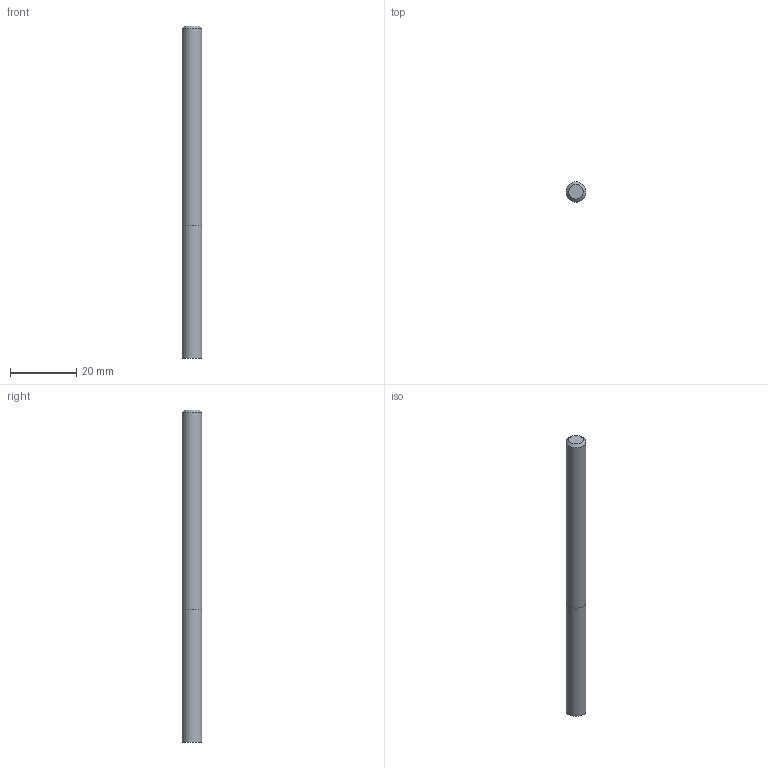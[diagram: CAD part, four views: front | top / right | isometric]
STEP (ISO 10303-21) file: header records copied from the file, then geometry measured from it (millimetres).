
FILE_DESCRIPTION((''),'2;1');
FILE_NAME('C:\Users\nsx150\Desktop\RSE230_20210427\01-00644-06004 RSE230 D6X40.step','2021-05-07T14:54:30',(''),(''),'STEP Write','Mastercam 2021 ... CNC Software, Inc.','');
FILE_SCHEMA(('AUTOMOTIVE_DESIGN'));
Length unit declared in the file: millimetre
Products named in the file (1): None
Bounding box: 6 x 6 x 100 mm (x, y, z)
Volume: 2821.9 mm3; surface area: 1988.4 mm2
Topology: 2 solids, 2 shells, 7 faces, 8 edges, 5 vertices
Faces by surface type: plane 4, cylinder 2, cone 1
Full cylindrical faces by diameter (mm): 6 x2
Entity records: 169 total; most frequent: DIRECTION 28, CARTESIAN_POINT 19, AXIS2_PLACEMENT_3D 14, ORIENTED_EDGE 10, EDGE_LOOP 10, STYLED_ITEM 10, ADVANCED_FACE 7, VERTEX_POINT 5
